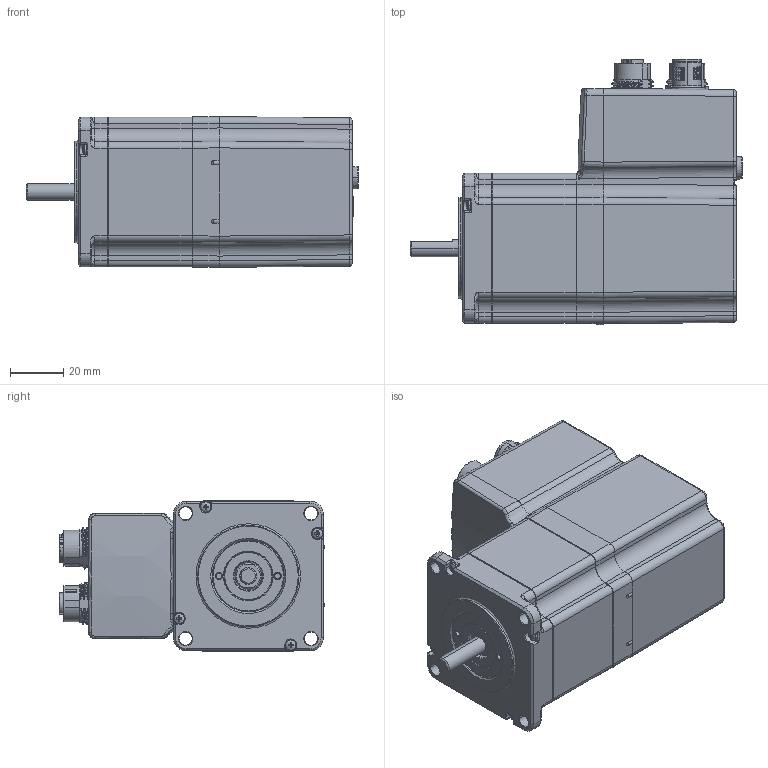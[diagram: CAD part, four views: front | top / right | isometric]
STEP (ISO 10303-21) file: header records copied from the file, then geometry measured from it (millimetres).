
FILE_DESCRIPTION((''),'2;1');
FILE_NAME('STEPPERASSY_ASM','2023-01-14T14:51:22',('Administrator'),(''),'CREO PARAMETRIC BY PTC INC, 2022014','CREO PARAMETRIC BY PTC INC, 2022014','');
FILE_SCHEMA(('AUTOMOTIVE_DESIGN { 1 0 10303 214 1 1 1 1 }'));
Products named in the file (8): FRONT_CAP_1; STATOR; RADIAL_CON; SHAFT_1; LOCK_NUT_1; SEALING_1; FAST_S; STEPPERASSY_ASM
Assembly tree (10 placements, depth 2):
  STEPPERASSY_ASM
    FRONT_CAP_1
    STATOR
    RADIAL_CON
    SHAFT_1
    LOCK_NUT_1
    SEALING_1
    FAST_S  x4
Bounding box: 124.9 x 99.82 x 56.67 mm (x, y, z)
Volume: 383426.8 mm3; surface area: 58721.1 mm2
Topology: 10 solids, 16 shells, 2188 faces, 5579 edges, 3486 vertices
Faces by surface type: plane 793, cylinder 610, bspline 362, cone 208, torus 181, sphere 32, extrusion 2
Entity records: 122627 total; most frequent: CARTESIAN_POINT 47126, ORIENTED_EDGE 10498, DIRECTION 9571, PRESENTATION_STYLE_ASSIGNMENT 5737, EDGE_CURVE 5251, STYLED_ITEM 4996, CURVE_STYLE 4793, AXIS2_PLACEMENT_3D 3573
